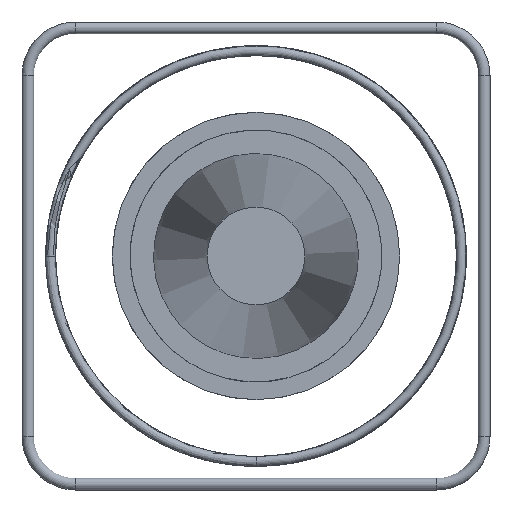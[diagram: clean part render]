
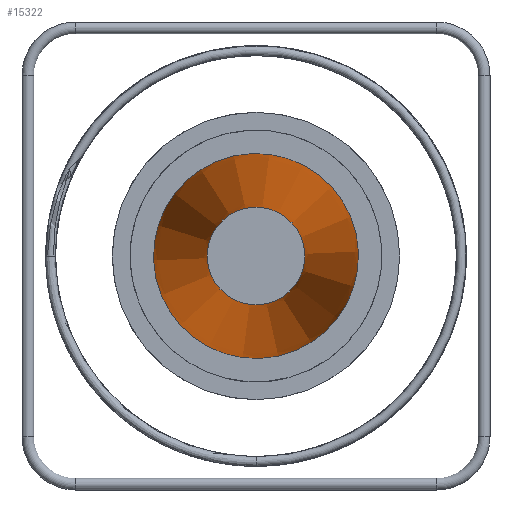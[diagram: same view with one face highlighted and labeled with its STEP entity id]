
A CAD part, left-side view. The second image highlights one B-rep face of the part: STEP entity #15322.
In plain terms, the highlighted conical face has half-angle 2 degrees and reference radius 127.75 mm.
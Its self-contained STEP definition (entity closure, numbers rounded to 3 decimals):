
#25=CONICAL_SURFACE('',#16170,127.75,2.);
#3659=FACE_BOUND('',#5548,.T.);
#4504=FACE_OUTER_BOUND('',#5547,.T.);
#5547=EDGE_LOOP('',(#13799));
#5548=EDGE_LOOP('',(#13800));
#6050=CIRCLE('',#16169,173.);
#6051=CIRCLE('',#16171,82.5);
#7507=VERTEX_POINT('',#41123);
#7508=VERTEX_POINT('',#41126);
#9635=EDGE_CURVE('',#7507,#7507,#6050,.T.);
#9636=EDGE_CURVE('',#7508,#7508,#6051,.T.);
#13799=ORIENTED_EDGE('',*,*,#9636,.F.);
#13800=ORIENTED_EDGE('',*,*,#9635,.T.);
#15322=ADVANCED_FACE('',(#4504,#3659),#25,.T.);
#16169=AXIS2_PLACEMENT_3D('',#41124,#18708,#18709);
#16170=AXIS2_PLACEMENT_3D('',#41125,#18710,#18711);
#16171=AXIS2_PLACEMENT_3D('',#41127,#18712,#18713);
#18708=DIRECTION('center_axis',(-1.,0.,0.));
#18709=DIRECTION('ref_axis',(0.,-0.044,-0.999));
#18710=DIRECTION('center_axis',(1.,0.,0.));
#18711=DIRECTION('ref_axis',(0.,0.999,-0.044));
#18712=DIRECTION('center_axis',(-1.,0.,0.));
#18713=DIRECTION('ref_axis',(0.,-0.044,-0.999));
#41123=CARTESIAN_POINT('',(-755.,172.832,-7.623));
#41124=CARTESIAN_POINT('Origin',(-755.,0.,
0.));
#41125=CARTESIAN_POINT('Origin',(-2051.,0.,0.));
#41126=CARTESIAN_POINT('',(-3347.,82.42,-3.635));
#41127=CARTESIAN_POINT('Origin',(-3347.,0.,0.));
